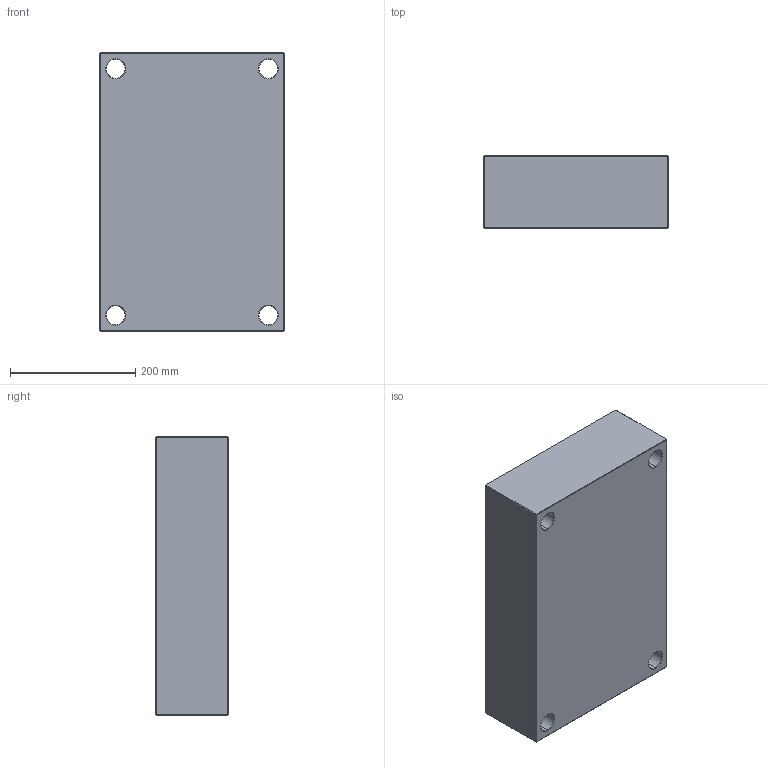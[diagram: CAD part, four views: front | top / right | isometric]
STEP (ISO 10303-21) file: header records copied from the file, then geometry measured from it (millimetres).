
FILE_DESCRIPTION (( 'STEP AP214' ), '1' );
FILE_NAME ('PC-296x446x116.STEP', '2020-04-21T16:43:35', ( 'August' ), ( '' ), 'SwSTEP 2.0', 'SolidWorks 2018', '' );
FILE_SCHEMA (( 'AUTOMOTIVE_DESIGN' ));
Length unit declared in the file: millimetre
Products named in the file (1): PC-296x446x116
Bounding box: 296 x 116 x 446 mm (x, y, z)
Volume: 14964965.4 mm3; surface area: 475774.2 mm2
Topology: 1 solids, 1 shells, 82 faces, 168 edges, 96 vertices
Faces by surface type: plane 34, cone 24, cylinder 24
Entity records: 2170 total; most frequent: DIRECTION 406, CARTESIAN_POINT 347, ORIENTED_EDGE 336, EDGE_CURVE 168, AXIS2_PLACEMENT_3D 155, EDGE_LOOP 98, LINE 96, VERTEX_POINT 96
